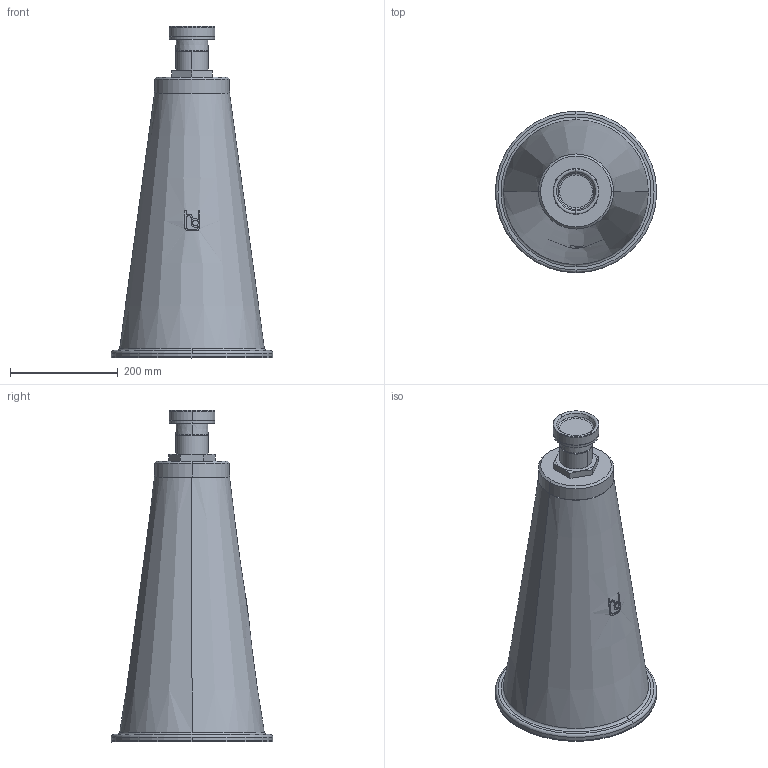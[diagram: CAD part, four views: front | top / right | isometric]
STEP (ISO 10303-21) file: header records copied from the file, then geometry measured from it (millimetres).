
FILE_DESCRIPTION(('STEP AP214'),'1');
FILE_NAME('RSRFC-09-V0.stp','2018-06-27T11:02:31',(' '),(' '),'Spatial InterOp 3D',' ',' ');
FILE_SCHEMA(('automotive_design'));
Length unit declared in the file: millimetre
Products named in the file (6): 1; 2; 3; 4; 5; 6
Bounding box: 300 x 300 x 617.1 mm (x, y, z)
Volume: 18623159 mm3; surface area: 695816.2 mm2
Topology: 6 solids, 6 shells, 117 faces, 289 edges, 189 vertices
Faces by surface type: plane 41, cylinder 35, cone 27, torus 14
Entity records: 5133 total; most frequent: CARTESIAN_POINT 1263, DIRECTION 617, ORIENTED_EDGE 578, EDGE_CURVE 289, AXIS2_PLACEMENT_3D 253, VERTEX_POINT 189, EDGE_LOOP 124, STYLED_ITEM 123
